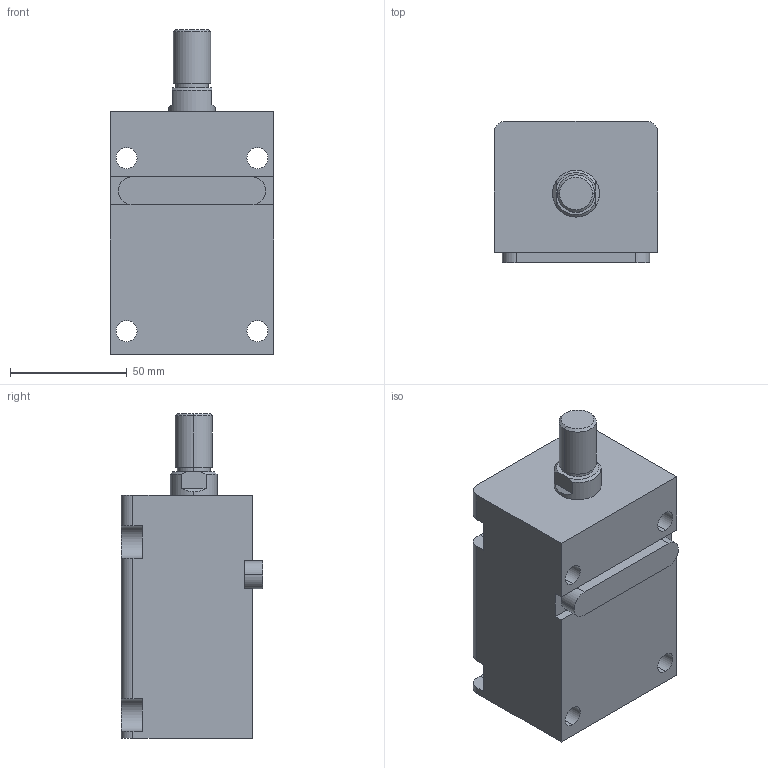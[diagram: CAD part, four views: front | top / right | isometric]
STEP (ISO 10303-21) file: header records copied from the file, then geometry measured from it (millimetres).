
FILE_DESCRIPTION (( 'STEP AP203' ), '1' );
FILE_NAME ('HTB-LA32-50W.STEP', '2019-10-09T06:28:39', ( '微软用户' ), ( '微软中国' ), 'SwSTEP 2.0', 'SolidWorks 2012', '' );
FILE_SCHEMA (( 'CONFIG_CONTROL_DESIGN' ));
Length unit declared in the file: millimetre
Products named in the file (4): HTB-LA32-50掛极; HTB-LA32-50W活塞杆; HTB-LA32-瑩; HTB-LA32-50W
Assembly tree (3 placements, depth 2):
  HTB-LA32-50W
    HTB-LA32-50掛极
    HTB-LA32-50W活塞杆
    HTB-LA32-瑩
Bounding box: 70 x 60.5 x 139 mm (x, y, z)
Volume: 372820.9 mm3; surface area: 62367.4 mm2
Topology: 3 solids, 3 shells, 92 faces, 223 edges, 146 vertices
Faces by surface type: plane 41, cylinder 37, cone 8, torus 6
Entity records: 3159 total; most frequent: DIRECTION 509, CARTESIAN_POINT 495, ORIENTED_EDGE 446, EDGE_CURVE 223, AXIS2_PLACEMENT_3D 196, VERTEX_POINT 146, LINE 117, VECTOR 117
